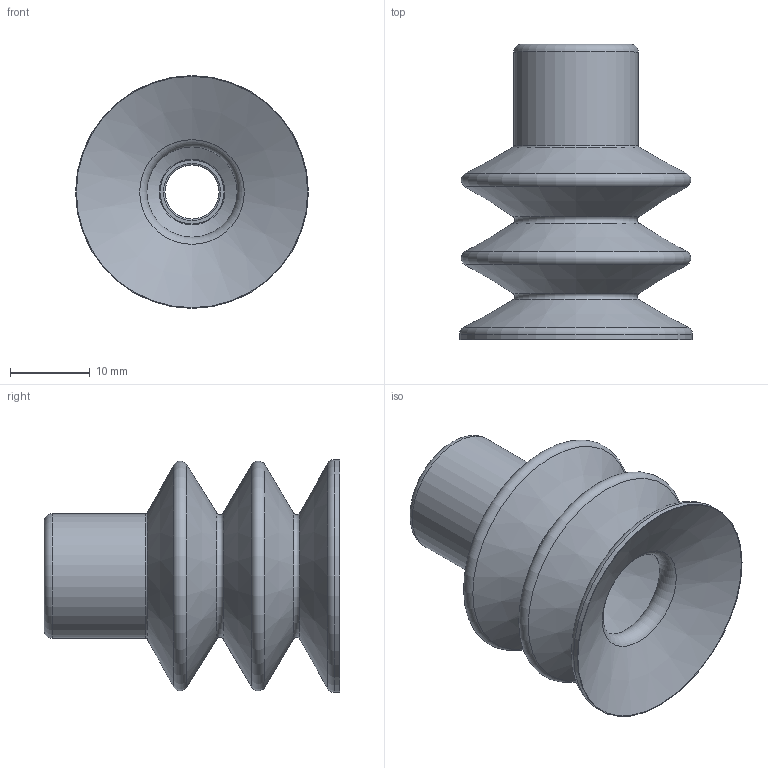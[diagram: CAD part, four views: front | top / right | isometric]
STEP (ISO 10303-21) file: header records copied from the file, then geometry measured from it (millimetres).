
FILE_DESCRIPTION (( 'STEP AP214' ), '1' );
FILE_NAME ('AR VF 29-- A.STEP', '2024-03-14T15:39:30', ( '' ), ( '' ), 'SwSTEP 2.0', 'SolidWorks 2021', '' );
FILE_SCHEMA (( 'AUTOMOTIVE_DESIGN' ));
Length unit declared in the file: millimetre
Products named in the file (1): AR VF 29-- A
Bounding box: 29.28 x 37.15 x 29.28 mm (x, y, z)
Volume: 6025.8 mm3; surface area: 6714.2 mm2
Topology: 1 solids, 1 shells, 40 faces, 76 edges, 40 vertices
Faces by surface type: torus 19, cone 12, cylinder 5, plane 4
Full cylindrical faces by diameter (mm): 6.796 x1, 7.895 x2, 15.69 x1, 29.282 x1
Entity records: 842 total; most frequent: DIRECTION 162, CARTESIAN_POINT 121, AXIS2_PLACEMENT_3D 81, EDGE_LOOP 80, ORIENTED_EDGE 80, FACE_OUTER_BOUND 64, VERTEX_POINT 40, CIRCLE 40
